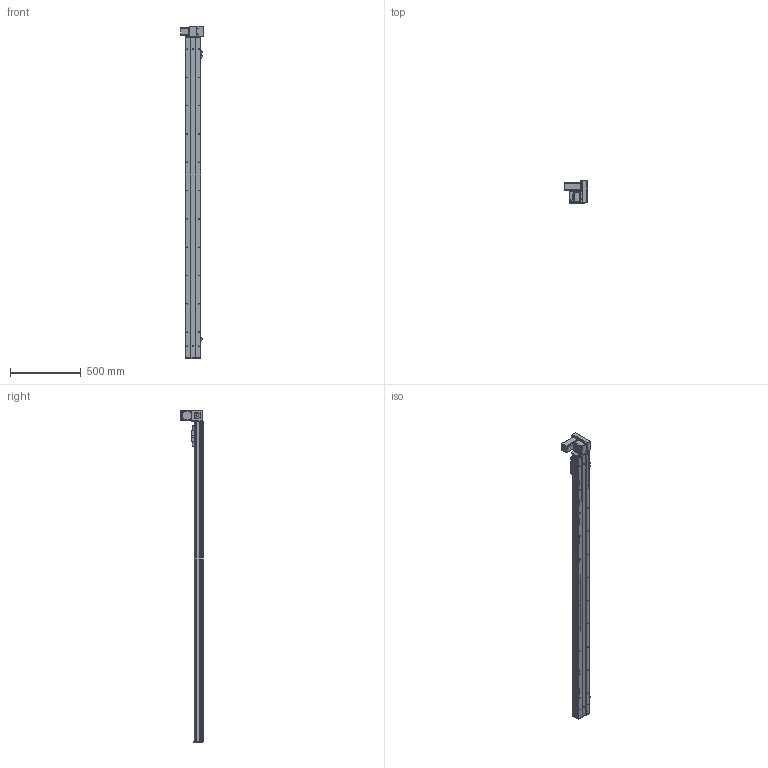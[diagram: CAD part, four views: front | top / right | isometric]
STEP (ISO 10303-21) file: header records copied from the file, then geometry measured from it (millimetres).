
FILE_DESCRIPTION (( 'STEP AP203' ), '1' );
FILE_NAME ('Y10CB-D90-S2000-UR-P400W.STEP', '2020-02-16T04:02:25', ( '微软用户' ), ( '微软中国' ), 'SwSTEP 2.0', 'SolidWorks 2017', '' );
FILE_SCHEMA (( 'CONFIG_CONTROL_DESIGN' ));
Length unit declared in the file: millimetre
Products named in the file (18): 10CB9-掛极; Y10B-々湍喘謫眊楊擘啣--; 10CB-耜裔; 0B-萇儂楊擘啣; Y135C-陔俋离換覜結え-; san松下电机400不带刹车----; Y100-135俋离換覜ん--; 0B-源倛裔啣; Y10B--々湍喘謫眊--666; 0B-埴倛裔啣; Y10B-耜蚾蟀諉啣----; 10CB-詩湍-; 00B-俋欶BM--; Y10CB- 掛极耜裔啣-毀---; 0CB-雄赽釱---; Y10CB-D90-S2000-UR-P400W; Y10C---詩湍揤啣; 0Cb-俋欶---
Assembly tree (21 placements, depth 2):
  Y10CB-D90-S2000-UR-P400W
    0CB-雄赽釱---
    0Cb-俋欶---
    Y10B-々湍喘謫眊楊擘啣--
    0B-萇儂楊擘啣
    san松下电机400不带刹车----
    0B-源倛裔啣
    0B-埴倛裔啣
    10CB-詩湍-
    Y10CB- 掛极耜裔啣-毀---  x2
    Y10C---詩湍揤啣  x2
    10CB9-掛极
    10CB-耜裔
    Y135C-陔俋离換覜結え-
    Y100-135俋离換覜ん--  x3
    Y10B--々湍喘謫眊--666
    Y10B-耜蚾蟀諉啣----
    00B-俋欶BM--
Bounding box: 157 x 155.5 x 2346 mm (x, y, z)
Volume: 4880847.8 mm3; surface area: 2291946.9 mm2
Topology: 21 solids, 21 shells, 1050 faces, 2843 edges, 1850 vertices
Faces by surface type: cylinder 539, plane 487, cone 24
Entity records: 33412 total; most frequent: CARTESIAN_POINT 6209, DIRECTION 5338, ORIENTED_EDGE 5156, EDGE_CURVE 2578, AXIS2_PLACEMENT_3D 1909, VERTEX_POINT 1676, VECTOR 1520, LINE 1520
